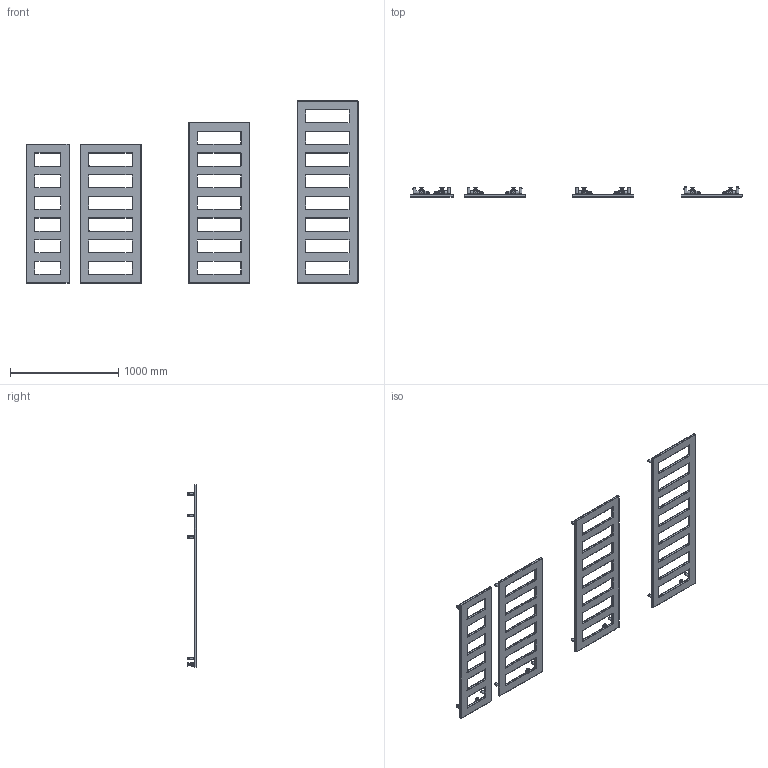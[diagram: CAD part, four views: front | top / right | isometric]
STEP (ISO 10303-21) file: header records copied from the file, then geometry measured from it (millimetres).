
FILE_DESCRIPTION ((), '1');
FILE_NAME ('/Users/melo21casa/Desktop/3D x Diliberto/FIT/FIT 3D.stp', '2025-09-09T11:47:27', ('Unknown'), ('Unknown'), 'HarmonyWare STEP v2.1.7', 'Vectorworks', '');
FILE_SCHEMA (('CONFIG_CONTROL_DESIGN'));
Bounding box: 3061.88 x 90.14 x 1680.88 mm (x, y, z)
Volume: 37264236.8 mm3; surface area: 4821945.2 mm2
Topology: 140 solids, 1292 shells, 5324 faces, 16032 edges, 12172 vertices
Faces by surface type: bspline 5324
Entity records: 263114 total; most frequent: CARTESIAN_POINT 174199, ORIENTED_EDGE 25744, EDGE_CURVE 15176, B_SPLINE_CURVE_WITH_KNOTS 13657, VERTEX_POINT 11404, EDGE_LOOP 5634, FACE_OUTER_BOUND 5324, ADVANCED_FACE 5324
